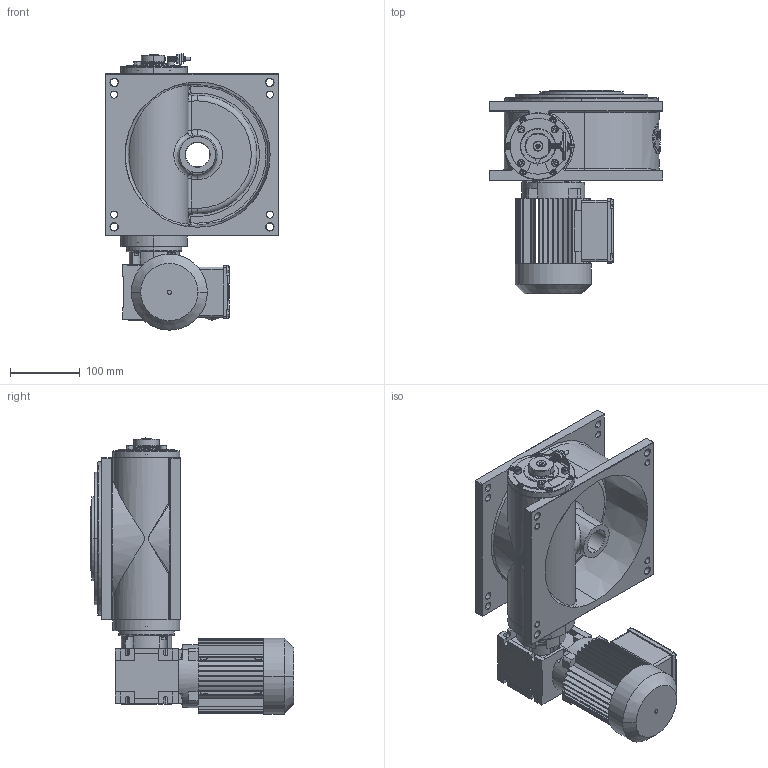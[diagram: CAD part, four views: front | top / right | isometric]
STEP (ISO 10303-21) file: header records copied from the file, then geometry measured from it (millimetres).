
FILE_DESCRIPTION (( 'STEP AP214' ), '1' );
FILE_NAME ('M190_SEW_WAF10DT56L4_E2.STEP', '2021-01-25T15:32:00', ( '' ), ( '' ), 'SwSTEP 2.0', 'SolidWorks 2020', '' );
FILE_SCHEMA (( 'AUTOMOTIVE_DESIGN' ));
Length unit declared in the file: millimetre
Products named in the file (1): M190_SEW_WAF10DT56L4_E2
Bounding box: 248 x 291.6 x 395.94 mm (x, y, z)
Surface area: 566302.3 mm2 (no closed solid volume)
Topology: 0 solids, 55 shells, 1415 faces, 4615 edges, 3068 vertices
Faces by surface type: plane 648, cylinder 457, cone 149, bspline 84, torus 65, sphere 12
Entity records: 74374 total; most frequent: CARTESIAN_POINT 19045, DIRECTION 8394, ORIENTED_EDGE 7686, EDGE_CURVE 4583, VERTEX_POINT 3068, AXIS2_PLACEMENT_3D 2897, LINE 2600, VECTOR 2600
